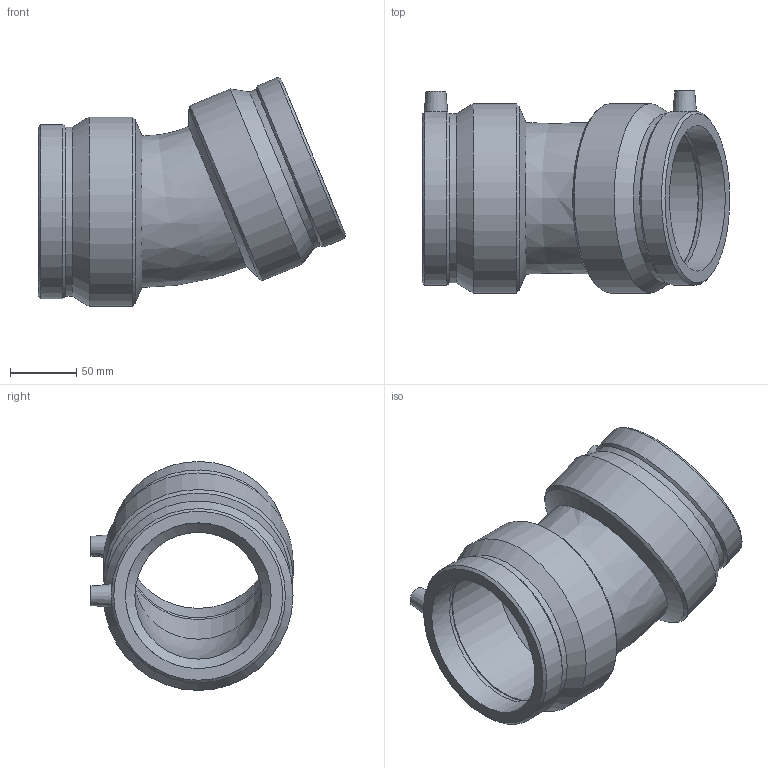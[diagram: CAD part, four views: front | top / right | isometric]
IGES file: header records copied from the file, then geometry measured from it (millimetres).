
Global section: file name: 490804110.ipt; native system: Autodesk Inventor 2015; preprocessor: unknown; author: KIM; date: 20180412.111808; units: millimetre
Bounding box: 232 x 152.5 x 172.79 mm (x, y, z)
Volume: 1009783 mm3; surface area: 181704.4 mm2
Topology: 1 solids, 1 shells, 44 faces, 104 edges, 68 vertices
Faces by surface type: cone 14, revolution 12, plane 10, cylinder 8
Full cylindrical faces by diameter (mm): 4 x2, 127.613 x2, 143 x2
